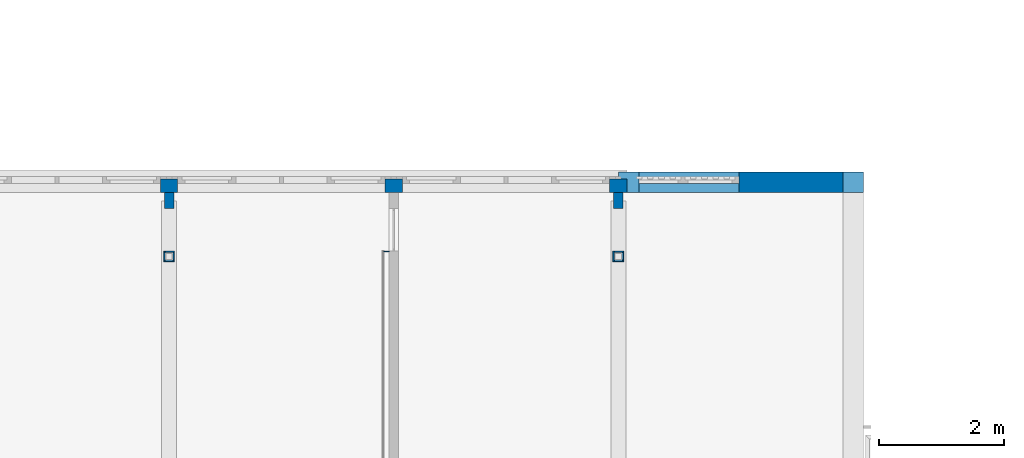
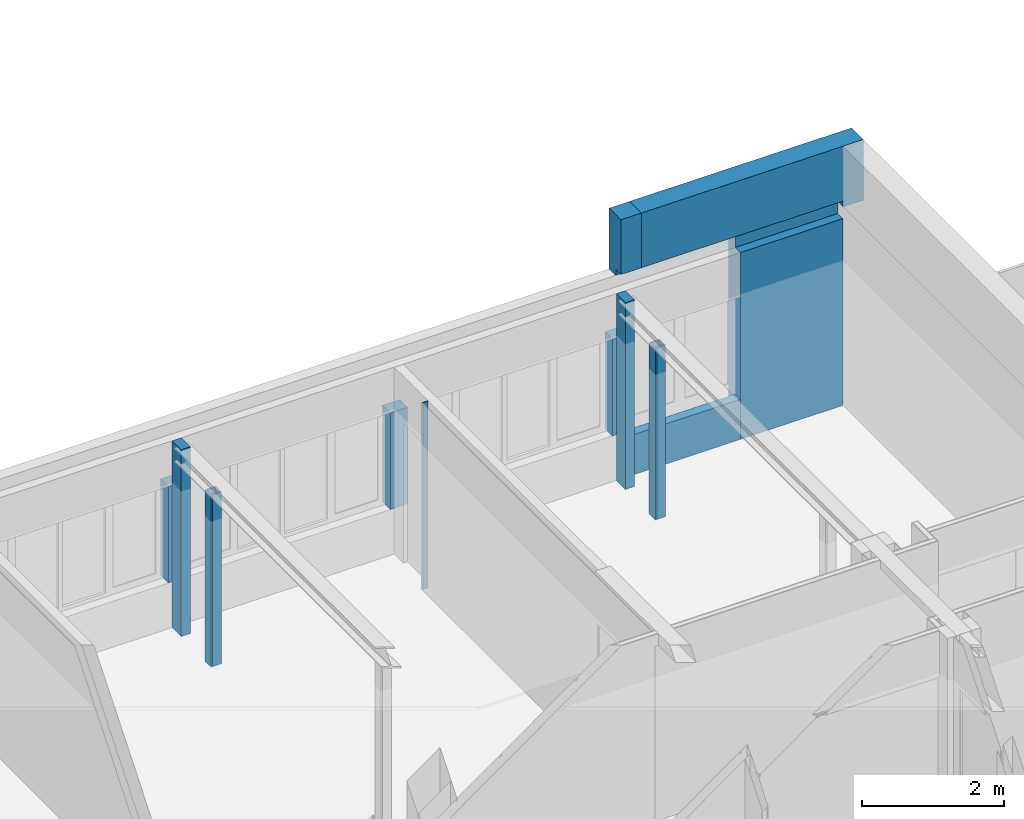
# One storey, part 69 of 117: 18 walls.
"""IFC2X3 building model written with IfcOpenShell, lengths in millimetres."""

import ifcopenshell
import ifcopenshell.guid

model = None  # the IFC model being written
_history = None  # IfcOwnerHistory: only IFC2X3 demands one
_inside = {}  # id of a spatial element -> (the spatial element, [elements in it])
_under = {}  # id of a project, library or spatial element -> (it, [spatial elements below it])
_declared = {}  # id of a project -> (the project, [libraries it declares])
_typed = {}  # id of a type object -> (the type object, [elements of that type])
_made_of = {}  # id of a material, layer set ... -> (it, [elements and type objects made of it])


def new_model(schema):
    """Start an empty IFC model of exactly this schema.

    Asked for "IFC4X3", IfcOpenShell would pick the latest addendum, in which some entities
    have other attributes; the version numbers below select the first issue.
    IFC2X3 requires an IfcOwnerHistory on every rooted entity: one is made here for all.
    """
    global model, _history
    if schema == "IFC4X3":
        model = ifcopenshell.file(schema_version=(4, 3, 0, 0))
    else:
        model = ifcopenshell.file(schema=schema)
    _inside.clear()
    _under.clear()
    _declared.clear()
    _typed.clear()
    _made_of.clear()
    _history = None
    if model.schema == "IFC2X3":
        org = make("IfcOrganization", Name="unknown")
        user = make(
            "IfcPersonAndOrganization",
            ThePerson=make("IfcPerson", FamilyName="unknown"),
            TheOrganization=org,
        )
        app = make(
            "IfcApplication",
            ApplicationDeveloper=org,
            Version="unknown",
            ApplicationFullName="unknown",
            ApplicationIdentifier="unknown",
        )
        _history = make(
            "IfcOwnerHistory",
            OwningUser=user,
            OwningApplication=app,
            ChangeAction="ADDED",
            CreationDate=0,
        )
    return model


def make(cls, **values):
    """One entity of the class cls with the attributes given. An attribute that is None is left unset."""
    return model.create_entity(
        cls, **{name: value for name, value in values.items() if value is not None}
    )


def entity(cls, *values):
    """Any entity or typed value of the class cls, its attributes in the order of the schema. None: left unset."""
    e = model.create_entity(cls)
    for i, value in enumerate(values):
        if value is not None:
            e[i] = value
    return e


def rooted(cls, **values):
    """An entity with a GlobalId (a new one), such as an element, a storey or a relation."""
    return make(cls, GlobalId=ifcopenshell.guid.new(), OwnerHistory=_history, **values)


def si_unit(unit_type, name, prefix=None):
    """IfcSIUnit, for example si_unit("LENGTHUNIT", "METRE", prefix="MILLI")."""
    return make("IfcSIUnit", UnitType=unit_type, Prefix=prefix, Name=name)


def converted_unit(unit_type, name, factor, base, dimensions=None, offset=None):
    """IfcConversionBasedUnit, such as the inch: factor (a typed value) times the base unit."""
    return make(
        "IfcConversionBasedUnit"
        if offset is None
        else "IfcConversionBasedUnitWithOffset",
        ConversionOffset=offset,
        Dimensions=None
        if dimensions is None
        else entity("IfcDimensionalExponents", *dimensions),
        UnitType=unit_type,
        Name=name,
        ConversionFactor=make(
            "IfcMeasureWithUnit", ValueComponent=factor, UnitComponent=base
        ),
    )


def derived_unit(unit_type, elements):
    """IfcDerivedUnit: a product of units, each with its exponent."""
    return make(
        "IfcDerivedUnit",
        Elements=[
            make("IfcDerivedUnitElement", Unit=unit, Exponent=power)
            for unit, power in elements
        ],
        UnitType=unit_type,
    )


def money_unit(currency):
    """IfcMonetaryUnit."""
    return make("IfcMonetaryUnit", Currency=currency)


def assignment(units):
    """IfcUnitAssignment: the units of a project."""
    return None if units is None else make("IfcUnitAssignment", Units=units)


def point(xyz):
    """IfcCartesianPoint."""
    return None if xyz is None else make("IfcCartesianPoint", Coordinates=xyz)


def direction(xyz):
    """IfcDirection."""
    return None if xyz is None else make("IfcDirection", DirectionRatios=xyz)


def frame(location, z_axis=None, x_axis=None):
    """IfcAxis2Placement3D, a coordinate frame: its origin and axes. An axis left out is left unset."""
    return make(
        "IfcAxis2Placement3D",
        Location=point(location),
        Axis=direction(z_axis),
        RefDirection=direction(x_axis),
    )


def origin_with_axes():
    """The frame at (0, 0, 0) with the z axis (0, 0, 1) and the x axis (1, 0, 0) written out."""
    return frame((0.0, 0.0, 0.0), z_axis=(0.0, 0.0, 1.0), x_axis=(1.0, 0.0, 0.0))


def place(relative_to, where):
    """IfcLocalPlacement: puts the frame where relative to a parent placement (None: the world)."""
    return make(
        "IfcLocalPlacement", PlacementRelTo=relative_to, RelativePlacement=where
    )


def context(
    kind, dimensions, precision=None, world=None, true_north=None, identifier=None
):
    """IfcGeometricRepresentationContext, for example the 3D "Model" context."""
    return make(
        "IfcGeometricRepresentationContext",
        ContextIdentifier=identifier,
        ContextType=kind,
        CoordinateSpaceDimension=dimensions,
        Precision=precision,
        WorldCoordinateSystem=world,
        TrueNorth=true_north,
    )


def subcontext(parent, identifier, kind, view, scale=None):
    """IfcGeometricRepresentationSubContext, for example "Body" below "Model"."""
    return make(
        "IfcGeometricRepresentationSubContext",
        ContextIdentifier=identifier,
        ContextType=kind,
        ParentContext=parent,
        TargetScale=scale,
        TargetView=view,
    )


def project(units=None, contexts=None):
    """IfcProject with its units and contexts."""
    return rooted(
        "IfcProject",
        Name="project",
        RepresentationContexts=contexts,
        UnitsInContext=assignment(units),
    )


def spatial(cls, under=None, at=None, **own):
    """A site, building, storey or space (cls), placed at a placement, below another one or the project."""
    s = rooted(cls, ObjectPlacement=at, **own)
    if under is not None:
        _under.setdefault(under.id(), (under, []))[1].append(s)
    return s


def faces_of(points, faces, orient=None, outer=None):
    """IfcFace entities. A face is a list of loops; a loop is a list of indices into points, from 0.

    orient and outer hold one flag for each loop. By default every Orientation is true, the
    first loop of a face is its IfcFaceOuterBound and the others are IfcFaceBound.
    """
    made = []
    for i, loops in enumerate(faces):
        bounds = []
        for j, loop in enumerate(loops):
            is_outer = j == 0 if outer is None else outer[i][j]
            bounds.append(
                make(
                    "IfcFaceOuterBound" if is_outer else "IfcFaceBound",
                    Bound=make("IfcPolyLoop", Polygon=[points[k] for k in loop]),
                    Orientation=True if orient is None else orient[i][j],
                )
            )
        made.append(make("IfcFace", Bounds=bounds))
    return made


def faceted_brep(points, faces, orient=None, outer=None, voids=None):
    """IfcFacetedBrep: a solid bounded by flat faces; with voids (closed shells), ...WithVoids."""
    shared = [point(p) for p in points]
    hull = make("IfcClosedShell", CfsFaces=faces_of(shared, faces, orient, outer))
    if voids is None:
        return make("IfcFacetedBrep", Outer=hull)
    return make(
        "IfcFacetedBrepWithVoids",
        Outer=hull,
        Voids=[
            make(cls, CfsFaces=faces_of(shared, fs, o, b)) for cls, fs, o, b in voids
        ],
    )


def shape(context_of_items, identifier, shape_type, items):
    """IfcShapeRepresentation: the items that make up one representation, for example the "Body"."""
    return make(
        "IfcShapeRepresentation",
        ContextOfItems=context_of_items,
        RepresentationIdentifier=identifier,
        RepresentationType=shape_type,
        Items=items,
    )


def material(Name=None, Category=None):
    """IfcMaterial."""
    return make("IfcMaterial", Name=Name, Category=Category)


def made_of(thing, what):
    """Note that an element or type object is made of a material, layer set ...; save() writes the relation."""
    if what is not None:
        _made_of.setdefault(what.id(), (what, []))[1].append(thing)
    return thing


def type_object(cls, material=None, **own):
    """A type object (cls), such as IfcWallType, which elements share."""
    return made_of(rooted(cls, **own), material)


def element(
    cls,
    number,
    at=None,
    inside=None,
    cuts=None,
    type_object=None,
    material=None,
    context=None,
    identifier="Body",
    shape_type=None,
    held_by="IfcProductDefinitionShape",
    body=None,
    shapes=None,
    **own,
):
    """One element of the class cls, such as IfcWall. Its Tag is "e" and its number.

    at: its placement. inside: the storey or other place that contains it. cuts: it is an
    opening in that element (IfcRelVoidsElement). A single representation is given by context,
    identifier, shape_type and body (its items); several are given by shapes. held_by: the class
    of the entity that holds the representations. save() writes the other relations.
    """
    e = rooted(cls, Tag="e%d" % number, ObjectPlacement=at, **own)
    if body is not None:
        shapes = [shape(context, identifier, shape_type, body)]
    if shapes is not None:
        e.Representation = make(held_by, Representations=shapes)
    if inside is not None:
        _inside.setdefault(inside.id(), (inside, []))[1].append(e)
    if cuts is not None:
        rooted(
            "IfcRelVoidsElement", RelatingBuildingElement=cuts, RelatedOpeningElement=e
        )
    if type_object is not None:
        _typed.setdefault(type_object.id(), (type_object, []))[1].append(e)
    return made_of(e, material)


def aggregate(whole, parts):
    """IfcRelAggregates: a whole, such as a stair, and the parts it consists of."""
    return rooted("IfcRelAggregates", RelatingObject=whole, RelatedObjects=parts)


def save(model, path):
    """Write the relations noted so far, then the file.

    IfcRelAggregates (storeys below a building ...), IfcRelContainedInSpatialStructure (elements
    in a storey), IfcRelDefinesByType, IfcRelAssociatesMaterial and IfcRelDeclares: one each for
    every whole, place, type object, material and project.
    """
    for whole, parts in _under.values():
        aggregate(whole, parts)
    for where, things in _inside.values():
        rooted(
            "IfcRelContainedInSpatialStructure",
            RelatedElements=things,
            RelatingStructure=where,
        )
    for kind, things in _typed.values():
        rooted("IfcRelDefinesByType", RelatedObjects=things, RelatingType=kind)
    for what, things in _made_of.values():
        rooted("IfcRelAssociatesMaterial", RelatedObjects=things, RelatingMaterial=what)
    for by, libraries in _declared.values():
        rooted("IfcRelDeclares", RelatingContext=by, RelatedDefinitions=libraries)
    model.write(path)


model = new_model("IFC2X3")

# Units and contexts
model_context = context("Model", 3, precision=0.01, world=origin_with_axes(), true_north=direction((0.0, 1.0)))
body_context = subcontext(model_context, "Body", "Model", "MODEL_VIEW")
ifc_project = project(units=[si_unit("LENGTHUNIT", "METRE", prefix="MILLI"), si_unit("AREAUNIT", "SQUARE_METRE"), si_unit("VOLUMEUNIT", "CUBIC_METRE"), converted_unit("PLANEANGLEUNIT", "DEGREE", entity("IfcPlaneAngleMeasure", 0.0174532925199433), si_unit("PLANEANGLEUNIT", "RADIAN"), dimensions=[0, 0, 0, 0, 0, 0, 0]), money_unit("EUR"), converted_unit("TIMEUNIT", "Year", entity("IfcTimeMeasure", 31557600.0), si_unit("TIMEUNIT", "SECOND"), dimensions=[0, 0, 1, 0, 0, 0, 0]), si_unit("MASSUNIT", "GRAM", prefix="KILO"), si_unit("THERMODYNAMICTEMPERATUREUNIT", "DEGREE_CELSIUS"), si_unit("LUMINOUSINTENSITYUNIT", "LUMEN"), si_unit("ENERGYUNIT", "JOULE", prefix="MEGA"), derived_unit("THERMALCONDUCTANCEUNIT", [(si_unit("POWERUNIT", "WATT"), 1), (si_unit("LENGTHUNIT", "METRE"), -1), (si_unit("THERMODYNAMICTEMPERATUREUNIT", "KELVIN"), -1)]), derived_unit("SPECIFICHEATCAPACITYUNIT", [(si_unit("ENERGYUNIT", "JOULE"), 1), (si_unit("MASSUNIT", "GRAM", prefix="KILO"), -1), (si_unit("THERMODYNAMICTEMPERATUREUNIT", "KELVIN"), -1)]), derived_unit("MASSDENSITYUNIT", [(si_unit("MASSUNIT", "GRAM", prefix="KILO"), 1), (si_unit("VOLUMEUNIT", "CUBIC_METRE"), -1)])], contexts=[model_context])

# Site, building, storey
site_placement = place(None, origin_with_axes())
site = spatial("IfcSite", under=ifc_project, at=site_placement, Name="Site", CompositionType="ELEMENT")
building_placement = place(site_placement, origin_with_axes())
building = spatial("IfcBuilding", under=site, at=building_placement, Name="Naam gebouw", CompositionType="ELEMENT")
storey_placement = place(building_placement, frame((0.0, 0.0, 4150.0), z_axis=(0.0, 0.0, 1.0), x_axis=(1.0, 0.0, 0.0)))
storey = spatial("IfcBuildingStorey", under=building, at=storey_placement, Name="1e verdieping N", CompositionType="ELEMENT", Elevation=4150.0)

# Walls
ifc_material_1 = material(Name="ALG - CONSTRUCTIEF")
wall_type_1 = type_object("IfcWallType", Name="ALG - CONSTRUCTIEF 150", PredefinedType="NOTDEFINED")
wall_1_placement = place(storey_placement, frame((43200.00000000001, 27250.91242510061, -99.99999999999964), z_axis=(0.0, 0.0, 1.0), x_axis=(0.0, 1.0, 0.0)))
element("IfcWall", 1, at=wall_1_placement, inside=storey, type_object=wall_type_1, material=ifc_material_1, Name="_Wand-x", context=body_context, shape_type="Brep", body=[
    faceted_brep([(255.0000000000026, -75.00000000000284, 3300.0), (0.0, -75.00000000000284, 3300.0), (0.0, -75.00000000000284, 99.99999999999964), (255.0000000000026, -75.00000000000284, 99.99999999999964), (255.0000000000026, 75.00000000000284, 3300.0), (0.0, 75.00000000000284, 3300.0), (0.0, 75.00000000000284, 99.99999999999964), (255.0000000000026, 75.00000000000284, 99.99999999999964)], [[[0, 1, 2, 3]], [[4, 5, 1, 0]], [[1, 5, 6, 2]], [[2, 6, 7, 3]], [[4, 0, 3, 7]], [[5, 4, 7, 6]]]),
])
wall_2_placement = place(storey_placement, frame((50400.00000000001, 27250.91242510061, -99.99999999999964), z_axis=(0.0, 0.0, 1.0), x_axis=(0.0, 1.0, 0.0)))
element("IfcWall", 2, at=wall_2_placement, inside=storey, type_object=wall_type_1, material=ifc_material_1, Name="_Wand-x", context=body_context, shape_type="Brep", body=[
    faceted_brep([(254.999999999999, -75.00000000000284, 3300.0), (0.0, -75.00000000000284, 3300.0), (0.0, -75.00000000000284, 99.99999999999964), (254.999999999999, -75.00000000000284, 99.99999999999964), (254.999999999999, 75.00000000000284, 3300.0), (0.0, 75.00000000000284, 3300.0), (0.0, 75.00000000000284, 99.99999999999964), (254.999999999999, 75.00000000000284, 99.99999999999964)], [[[0, 1, 2, 3]], [[4, 5, 1, 0]], [[1, 5, 6, 2]], [[2, 6, 7, 3]], [[4, 0, 3, 7]], [[5, 4, 7, 6]]]),
])
wall_type_2 = type_object("IfcWallType", Name="ALG - CONSTRUCTIEF 330", PredefinedType="NOTDEFINED")
wall_3_placement = place(storey_placement, frame((54000.0, 27505.91242510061, -99.99999999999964), z_axis=(0.0, 0.0, 1.0), x_axis=(-1.0, 0.0, 0.0)))
element("IfcWall", 3, at=wall_3_placement, inside=storey, type_object=wall_type_2, material=ifc_material_1, Name="_Wand-x", context=body_context, shape_type="Brep", body=[
    faceted_brep([(0.0, 0.0, 99.99999999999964), (0.0, -145.9999999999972, 99.99999999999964), (0.0, -145.9999999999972, 0.0), (0.0, -329.9999999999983, 0.0), (0.0, -329.9999999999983, 3500.0), (0.0, -145.5492363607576, 3500.0), (0.0, -145.5492363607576, 3300.0), (0.0, 0.0, 3300.0), (1662.500000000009, -145.9999999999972, 99.99999999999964), (1662.500000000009, 0.0, 99.99999999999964), (1662.500000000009, -145.9999999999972, 0.0), (1662.500000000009, -330.0000000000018, 0.0), (1662.500000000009, -329.9999999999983, 3500.0), (1662.500000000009, -145.5905537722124, 3500.0), (1662.500000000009, -145.5905537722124, 3300.0), (1662.500000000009, 0.0, 3300.0)], [[[0, 1, 2, 3, 4, 5, 6, 7]], [[8, 1, 0, 9]], [[10, 2, 1, 8]], [[3, 2, 10, 11]], [[12, 4, 3, 11]], [[12, 13, 5, 4]], [[14, 6, 5, 13]], [[15, 7, 6, 14]], [[15, 9, 0, 7]], [[10, 8, 9, 15, 14, 13, 12, 11]]]),
])
wall_4_placement = place(storey_placement, frame((50729.99999999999, 27835.9124251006, 3400.0), z_axis=(0.0, 0.0, 1.0), x_axis=(1.0, 0.0, 0.0)))
element("IfcWall", 4, at=wall_4_placement, inside=storey, type_object=wall_type_2, material=ifc_material_1, Name="_Wand-x", context=body_context, shape_type="Brep", body=[
    faceted_brep([(3270.00000000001, -329.9999999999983, 0.0), (3270.00000000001, -184.4507636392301, 0.0), (0.0, -184.369495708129, 0.0), (0.0, 0.0, 0.0), (3600.000000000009, 0.0, 0.0), (3600.000000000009, -329.9999999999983, 0.0), (3270.00000000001, -184.4507636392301, 99.99999999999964), (3270.00000000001, -329.9999999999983, 99.99999999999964), (0.0, -184.369495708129, 99.99999999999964), (0.0, -329.9999999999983, 99.99999999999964), (0.0, -329.9999999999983, 1039.999999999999), (0.0, 0.0, 1039.999999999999), (3600.000000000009, 0.0, 1039.999999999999), (3600.000000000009, -329.9999999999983, 1039.999999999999)], [[[0, 1, 2, 3, 4, 5]], [[6, 1, 0, 7]], [[8, 2, 1, 6]], [[2, 8, 9, 10, 11, 3]], [[3, 11, 12, 4]], [[4, 12, 13, 5]], [[9, 7, 0, 5, 13, 10]], [[6, 7, 9, 8]], [[11, 10, 13, 12]]]),
])
wall_5_placement = place(storey_placement, frame((50400.0, 27835.9124251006, 3400.0), z_axis=(0.0, 0.0, 1.0), x_axis=(1.0, 0.0, 0.0)))
element("IfcWall", 5, at=wall_5_placement, inside=storey, type_object=wall_type_2, material=ifc_material_1, Name="_Wand-x", context=body_context, shape_type="Brep", body=[
    faceted_brep([(329.9999999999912, -329.9999999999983, 99.99999999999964), (329.9999999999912, -184.369495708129, 99.99999999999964), (329.9999999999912, -184.369495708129, 0.0), (329.9999999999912, 0.0, 0.0), (329.9999999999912, 0.0, 1039.999999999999), (329.9999999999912, -329.9999999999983, 1039.999999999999), (0.0, -184.3612943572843, 99.99999999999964), (0.0, -329.9999999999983, 99.99999999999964), (0.0, -184.3612943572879, 0.0), (0.0, 0.0, 0.0), (0.0, 0.0, 1039.999999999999), (0.0, -329.9999999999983, 1039.999999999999)], [[[0, 1, 2, 3, 4, 5]], [[6, 1, 0, 7]], [[8, 2, 1, 6]], [[3, 2, 8, 9]], [[9, 10, 4, 3]], [[10, 11, 5, 4]], [[11, 7, 0, 5]], [[8, 6, 7, 11, 10, 9]]]),
])
wall_type_3 = type_object("IfcWallType", Name="ALG - CONSTRUCTIEF 146", PredefinedType="NOTDEFINED")
wall_6_placement = place(storey_placement, frame((52337.49999999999, 27505.91242510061, 0.0), z_axis=(0.0, 0.0, 1.0), x_axis=(-1.0, 0.0, 0.0)))
element("IfcWall", 6, at=wall_6_placement, inside=storey, type_object=wall_type_3, material=ifc_material_1, Name="_Wand-x", context=body_context, shape_type="Brep", body=[
    faceted_brep([(0.0, -146.0000000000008, 686.5000000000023), (1799.999999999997, -146.0000000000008, 686.5000000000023), (1799.999999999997, 0.0, 686.5000000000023), (0.0, 0.0, 686.5000000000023), (0.0, -146.0000000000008, 0.0), (1799.999999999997, -146.0000000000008, 0.0), (1799.999999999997, 0.0, 0.0), (0.0, 0.0, 0.0)], [[[0, 1, 2, 3]], [[4, 5, 1, 0]], [[2, 1, 5, 6]], [[3, 2, 6, 7]], [[4, 0, 3, 7]], [[7, 6, 5, 4]]]),
])
ifc_material_2 = material(Name="Gipsplaat")
wall_type_4 = type_object("IfcWallType", Name="Metalstud 100 enkel 100", PredefinedType="NOTDEFINED")
wall_7_placement = place(storey_placement, frame((46725.00000000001, 26565.9124251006, 0.0), z_axis=(0.0, 0.0, 1.0), x_axis=(-1.0, 0.0, 0.0)))
element("IfcWall", 7, at=wall_7_placement, inside=storey, type_object=wall_type_4, material=ifc_material_2, Name="_Wand-x", context=body_context, shape_type="Brep", body=[
    faceted_brep([(87.49999999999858, 0.0, 0.0), (87.49999999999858, 0.0, 3200.0), (0.0, 0.0, 3200.0), (0.0, 0.0, 0.0), (87.49999999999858, 12.49999999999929, 0.0), (87.49999999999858, 12.49999999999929, 3200.0), (0.0, 12.49999999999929, 3200.0), (0.0, 12.49999999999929, 0.0)], [[[0, 1, 2, 3]], [[4, 5, 1, 0]], [[5, 6, 2, 1]], [[3, 2, 6, 7]], [[7, 4, 0, 3]], [[7, 6, 5, 4]]]),
])
wall_type_5 = type_object("IfcWallType", Name="Gipsplaat 25", PredefinedType="NOTDEFINED")
wall_8_placement = place(storey_placement, frame((50315.0, 26395.91242510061, 0.0), z_axis=(0.0, 0.0, 1.0), x_axis=(1.0, 0.0, 0.0)))
element("IfcWall", 8, at=wall_8_placement, inside=storey, type_object=wall_type_5, material=ifc_material_2, Name="_Wand-x", context=body_context, shape_type="Brep", body=[
    faceted_brep([(169.9999999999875, 25.00000000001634, 0.0), (169.9999999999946, 0.0, 0.0), (24.99999999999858, 0.0, 0.0), (24.99999999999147, 25.00000000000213, 0.0), (169.9999999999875, 25.00000000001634, 2940.0), (169.9999999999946, 0.0, 2940.0), (24.99999999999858, 0.0, 2940.0), (24.99999999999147, 25.00000000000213, 2940.0)], [[[0, 1, 2, 3]], [[1, 0, 4, 5]], [[1, 5, 6, 2]], [[7, 3, 2, 6]], [[4, 0, 3, 7]], [[5, 4, 7, 6]]]),
])
wall_9_placement = place(storey_placement, frame((43114.99999999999, 26565.9124251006, 0.0), z_axis=(0.0, 0.0, 1.0), x_axis=(1.0, 0.0, 0.0)))
element("IfcWall", 9, at=wall_9_placement, inside=storey, type_object=wall_type_5, material=ifc_material_2, Name="_Wand-x", context=body_context, shape_type="Brep", body=[
    faceted_brep([(170.0000000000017, -24.99999999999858, 2940.000000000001), (170.0000000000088, 0.0, 2940.000000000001), (24.99999999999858, 0.0, 2940.000000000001), (24.99999999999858, -24.99999999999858, 2940.000000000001), (170.0000000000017, -24.99999999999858, 0.0), (170.0000000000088, 0.0, 0.0), (24.99999999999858, 0.0, 0.0), (24.99999999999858, -24.99999999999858, 0.0)], [[[0, 1, 2, 3]], [[1, 0, 4, 5]], [[1, 5, 6, 2]], [[7, 3, 2, 6]], [[4, 0, 3, 7]], [[5, 4, 7, 6]]]),
])
wall_10_placement = place(storey_placement, frame((43284.99999999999, 26395.9124251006, 0.0), z_axis=(0.0, 0.0, 1.0), x_axis=(0.0, 1.0, 0.0)))
element("IfcWall", 10, at=wall_10_placement, inside=storey, type_object=wall_type_5, material=ifc_material_2, Name="_Wand-x", context=body_context, shape_type="Brep", body=[
    faceted_brep([(145.0000000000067, 25.00000000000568, 0.0), (145.0000000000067, 0.0, 0.0), (24.99999999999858, 0.0, 0.0), (25.00000000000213, 24.99999999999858, 0.0), (145.0000000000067, 25.00000000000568, 2940.000000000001), (145.0000000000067, 0.0, 2940.000000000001), (24.99999999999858, 0.0, 2940.000000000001), (25.00000000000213, 24.99999999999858, 2940.000000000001)], [[[0, 1, 2, 3]], [[1, 0, 4, 5]], [[1, 5, 6, 2]], [[7, 3, 2, 6]], [[4, 0, 3, 7]], [[5, 4, 7, 6]]]),
])
wall_11_placement = place(storey_placement, frame((43114.99999999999, 26395.91242510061, 0.0), z_axis=(0.0, 0.0, 1.0), x_axis=(1.0, 0.0, 0.0)))
element("IfcWall", 11, at=wall_11_placement, inside=storey, type_object=wall_type_5, material=ifc_material_2, Name="_Wand-x", context=body_context, shape_type="Brep", body=[
    faceted_brep([(169.9999999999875, 25.00000000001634, 0.0), (169.9999999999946, 0.0, 0.0), (24.99999999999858, 0.0, 0.0), (24.99999999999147, 25.00000000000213, 0.0), (169.9999999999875, 25.00000000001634, 2940.000000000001), (169.9999999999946, 0.0, 2940.000000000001), (24.99999999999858, 0.0, 2940.000000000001), (24.99999999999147, 25.00000000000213, 2940.000000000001)], [[[0, 1, 2, 3]], [[1, 0, 4, 5]], [[1, 5, 6, 2]], [[7, 3, 2, 6]], [[4, 0, 3, 7]], [[5, 4, 7, 6]]]),
])
wall_12_placement = place(storey_placement, frame((50484.99999999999, 26395.9124251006, 0.0), z_axis=(0.0, 0.0, 1.0), x_axis=(0.0, 1.0, 0.0)))
element("IfcWall", 12, at=wall_12_placement, inside=storey, type_object=wall_type_5, material=ifc_material_2, Name="_Wand-x", context=body_context, shape_type="Brep", body=[
    faceted_brep([(145.0000000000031, 25.00000000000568, 0.0), (145.0000000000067, 0.0, 0.0), (24.99999999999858, 0.0, 0.0), (24.99999999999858, 24.99999999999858, 0.0), (145.0000000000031, 25.00000000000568, 2940.0), (145.0000000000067, 0.0, 2940.0), (24.99999999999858, 0.0, 2940.0), (24.99999999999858, 24.99999999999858, 2940.0)], [[[0, 1, 2, 3]], [[1, 0, 4, 5]], [[1, 5, 6, 2]], [[7, 3, 2, 6]], [[4, 0, 3, 7]], [[5, 4, 7, 6]]]),
])
wall_13_placement = place(storey_placement, frame((50315.0, 26565.9124251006, 0.0), z_axis=(0.0, 0.0, 1.0), x_axis=(1.0, 0.0, 0.0)))
element("IfcWall", 13, at=wall_13_placement, inside=storey, type_object=wall_type_5, material=ifc_material_2, Name="_Wand-x", context=body_context, shape_type="Brep", body=[
    faceted_brep([(170.0000000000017, -24.99999999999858, 2940.0), (170.0000000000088, 0.0, 2940.0), (24.99999999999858, 0.0, 2940.0), (24.99999999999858, -24.99999999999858, 2940.0), (170.0000000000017, -24.99999999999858, 0.0), (170.0000000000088, 0.0, 0.0), (24.99999999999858, 0.0, 0.0), (24.99999999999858, -24.99999999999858, 0.0)], [[[0, 1, 2, 3]], [[1, 0, 4, 5]], [[1, 5, 6, 2]], [[7, 3, 2, 6]], [[4, 0, 3, 7]], [[5, 4, 7, 6]]]),
])
wall_14_placement = place(storey_placement, frame((50315.0, 26395.91242510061, 0.0), z_axis=(0.0, 0.0, 1.0), x_axis=(0.0, 1.0, 0.0)))
element("IfcWall", 14, at=wall_14_placement, inside=storey, type_object=wall_type_5, material=ifc_material_2, Name="_Wand-x", context=body_context, shape_type="Brep", body=[
    faceted_brep([(169.999999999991, -24.99999999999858, 2940.0), (169.999999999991, 0.0, 2940.0), (0.0, 0.0, 2940.0), (0.0, -24.99999999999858, 2940.0), (169.999999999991, -24.99999999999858, 0.0), (169.999999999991, 0.0, 0.0), (0.0, 0.0, 0.0), (0.0, -24.99999999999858, 0.0)], [[[0, 1, 2, 3]], [[1, 0, 4, 5]], [[1, 5, 6, 2]], [[7, 3, 2, 6]], [[4, 0, 3, 7]], [[5, 4, 7, 6]]]),
])
wall_15_placement = place(storey_placement, frame((43114.99999999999, 26395.91242510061, 0.0), z_axis=(0.0, 0.0, 1.0), x_axis=(0.0, 1.0, 0.0)))
element("IfcWall", 15, at=wall_15_placement, inside=storey, type_object=wall_type_5, material=ifc_material_2, Name="_Wand-x", context=body_context, shape_type="Brep", body=[
    faceted_brep([(169.999999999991, -24.99999999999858, 2940.000000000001), (169.999999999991, 0.0, 2940.000000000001), (0.0, 0.0, 2940.000000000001), (0.0, -24.99999999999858, 2940.000000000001), (169.999999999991, -24.99999999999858, 0.0), (169.999999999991, 0.0, 0.0), (0.0, 0.0, 0.0), (0.0, -24.99999999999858, 0.0)], [[[0, 1, 2, 3]], [[1, 0, 4, 5]], [[1, 5, 6, 2]], [[7, 3, 2, 6]], [[4, 0, 3, 7]], [[5, 4, 7, 6]]]),
])
ifc_material_3 = material(Name="ALG - GEVEL")
wall_type_6 = type_object("IfcWallType", Name="ALG - GEVEL 260", PredefinedType="NOTDEFINED")
wall_16_placement = place(storey_placement, frame((43337.49999999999, 27765.91242510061, 783.0000000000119), z_axis=(0.0, 0.0, 1.0), x_axis=(-1.0, 0.0, 0.0)))
element("IfcWall", 16, at=wall_16_placement, inside=storey, type_object=wall_type_6, material=ifc_material_3, Name="_Wand-x", context=body_context, shape_type="Brep", body=[
    faceted_brep([(0.0, 43.99999999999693, 1656.999999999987), (0.0, 43.99999999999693, 0.0), (275.0000000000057, 43.99999999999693, 0.0), (275.0000000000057, 43.99999999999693, 1656.999999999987), (0.0, 260.0000000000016, 0.0), (0.0, 260.0000000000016, 1656.999999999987), (275.0000000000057, 260.0000000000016, 0.0), (275.0000000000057, 260.0000000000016, 1656.999999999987)], [[[0, 1, 2, 3]], [[4, 1, 0, 5]], [[2, 1, 4, 6]], [[7, 3, 2, 6]], [[0, 3, 7, 5]], [[6, 4, 5, 7]]]),
])
wall_17_placement = place(storey_placement, frame((46937.49999999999, 27765.91242510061, 783.0000000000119), z_axis=(0.0, 0.0, 1.0), x_axis=(-1.0, 0.0, 0.0)))
element("IfcWall", 17, at=wall_17_placement, inside=storey, type_object=wall_type_6, material=ifc_material_3, Name="_Wand-x", context=body_context, shape_type="Brep", body=[
    faceted_brep([(0.0, 43.99999999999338, 1656.999999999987), (0.0, 43.99999999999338, 0.0), (275.0000000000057, 43.99999999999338, 0.0), (275.0000000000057, 43.99999999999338, 1656.999999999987), (0.0, 260.0000000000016, 0.0), (0.0, 260.0000000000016, 1656.999999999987), (275.0000000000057, 260.0000000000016, 0.0), (275.0000000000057, 260.0000000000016, 1656.999999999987)], [[[0, 1, 2, 3]], [[4, 1, 0, 5]], [[2, 1, 4, 6]], [[7, 3, 2, 6]], [[0, 3, 7, 5]], [[6, 4, 5, 7]]]),
])
wall_18_placement = place(storey_placement, frame((50537.5, 27765.91242510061, 783.0000000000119), z_axis=(0.0, 0.0, 1.0), x_axis=(-1.0, 0.0, 0.0)))
element("IfcWall", 18, at=wall_18_placement, inside=storey, type_object=wall_type_6, material=ifc_material_3, Name="_Wand-x", context=body_context, shape_type="Brep", body=[
    faceted_brep([(0.0, 43.99999999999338, 1656.999999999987), (0.0, 43.99999999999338, 0.0), (275.0000000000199, 43.99999999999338, 0.0), (275.0000000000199, 43.99999999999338, 1656.999999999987), (0.0, 260.0000000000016, 0.0), (0.0, 260.0000000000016, 1656.999999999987), (275.0000000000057, 260.0000000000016, 0.0), (275.0000000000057, 260.0000000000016, 1656.999999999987)], [[[0, 1, 2, 3]], [[4, 1, 0, 5]], [[2, 1, 4, 6]], [[7, 3, 2, 6]], [[0, 3, 7, 5]], [[6, 4, 5, 7]]]),
])

save(model, "model.ifc")
